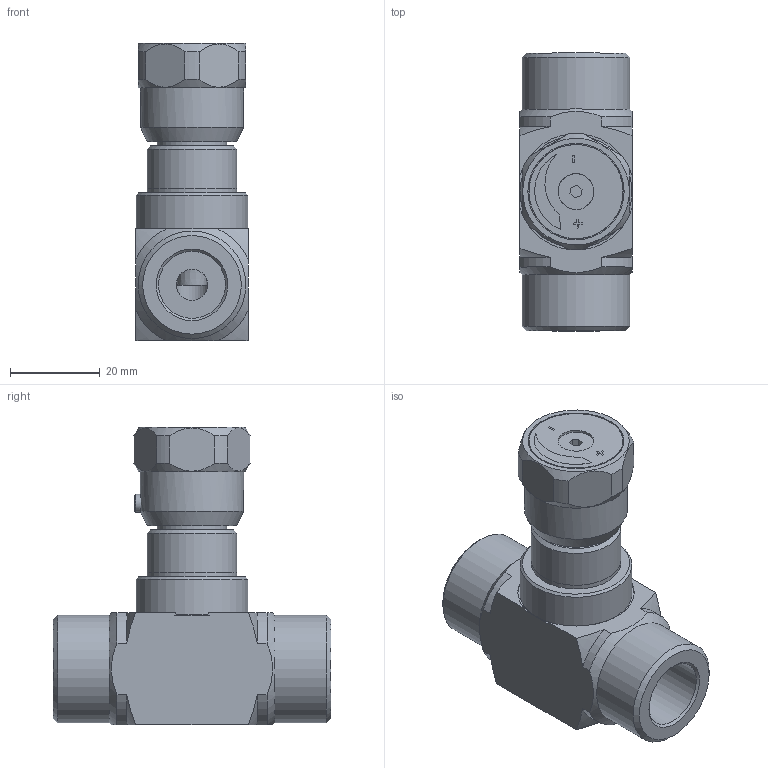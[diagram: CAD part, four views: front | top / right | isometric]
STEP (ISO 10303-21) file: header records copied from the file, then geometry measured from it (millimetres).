
FILE_DESCRIPTION(/* description */ ('Unknown'),/* implementation_level */ '2;1');
FILE_NAME(/* name */ 'STB38',/* time_stamp */ '2024-12-05T10:40:53+01:00',/* author */ ('Unknown'),/* organization */ ('Unknown'),/* preprocessor_version */ 'ST-DEVELOPER v19.4',/* originating_system */ 'Solid Edge',/* authorisation */ 'Unknown');
FILE_SCHEMA (('AUTOMOTIVE_DESIGN {1 0 10303 214 3 1 1}'));
Length unit declared in the file: millimetre
Products named in the file (1): STB38
Bounding box: 25 x 62 x 66.43 mm (x, y, z)
Volume: 41433.6 mm3; surface area: 15417.3 mm2
Topology: 1 solids, 1 shells, 145 faces, 361 edges, 239 vertices
Faces by surface type: plane 67, cylinder 45, cone 24, torus 9
Full cylindrical faces by diameter (mm): 4 x1, 7 x1, 7.5 x2, 8 x1, 8.25 x1, 8.5 x1, 10 x1, 11 x1, 12 x1, 14.95 x4, 15.5 x1, 17 x1, 20 x3, 21 x1, 21.5 x1, 23 x1, 24 x2, 25 x1
Entity records: 4979 total; most frequent: CARTESIAN_POINT 883, DIRECTION 624, ORIENTED_EDGE 560, EDGE_CURVE 280, AXIS2_PLACEMENT_3D 249, FACE_BOUND 218, EDGE_LOOP 217, VERTEX_POINT 208
